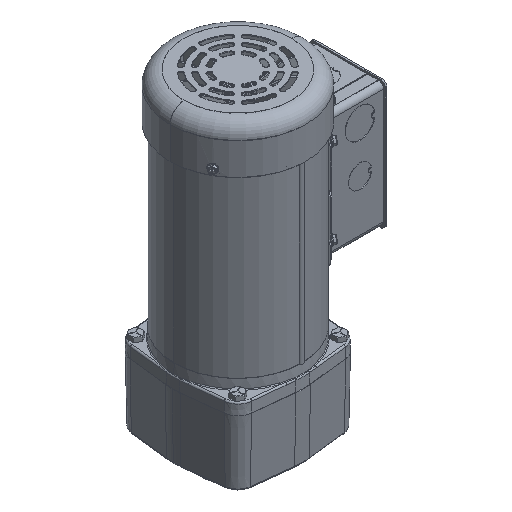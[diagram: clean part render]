
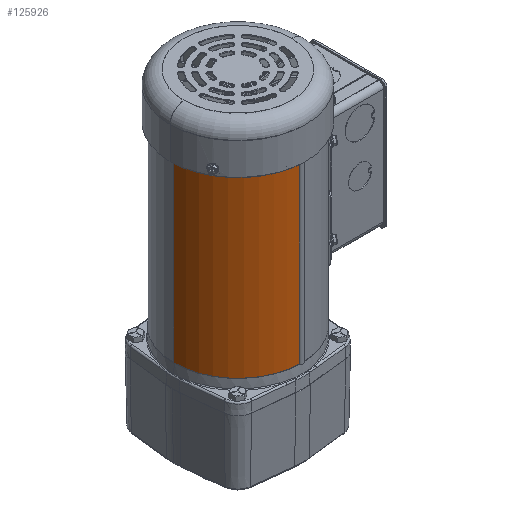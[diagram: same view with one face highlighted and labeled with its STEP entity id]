
A CAD part, isometric view. The second image highlights one B-rep face of the part: STEP entity #125926.
In plain terms, the highlighted cylindrical face has radius 61.773 mm (diameter 123.546 mm), a partial arc.
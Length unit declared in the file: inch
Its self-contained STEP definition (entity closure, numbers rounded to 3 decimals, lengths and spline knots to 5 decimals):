
#3871 = DIRECTION ( 'NONE',  ( 0., 0., 1. ) ) ;
#11103 = ORIENTED_EDGE ( 'NONE', *, *, #12290, .T. ) ;
#12290 = EDGE_CURVE ( 'NONE', #16472, #47808, #76961, .T. ) ;
#16204 = VERTEX_POINT ( 'NONE', #41855 ) ;
#16472 = VERTEX_POINT ( 'NONE', #88556 ) ;
#19276 = CYLINDRICAL_SURFACE ( 'NONE', #84937, 2.432 ) ;
#20768 = VECTOR ( 'NONE', #3871, 39.37008 ) ;
#21103 = CARTESIAN_POINT ( 'NONE',  ( 0., 0., 1.1565 ) ) ;
#21335 = DIRECTION ( 'NONE',  ( 0., 0., 1. ) ) ;
#32765 = EDGE_CURVE ( 'NONE', #72530, #16204, #113583, .T. ) ;
#37244 = VECTOR ( 'NONE', #21335, 39.37008 ) ;
#41855 = CARTESIAN_POINT ( 'NONE',  ( -0.09, -2.43033, 7.9065 ) ) ;
#42729 = FACE_OUTER_BOUND ( 'NONE', #69313, .T. ) ;
#47808 = VERTEX_POINT ( 'NONE', #111767 ) ;
#51152 = EDGE_CURVE ( 'NONE', #16472, #72530, #129608, .T. ) ;
#55250 = ORIENTED_EDGE ( 'NONE', *, *, #127034, .T. ) ;
#62426 = CARTESIAN_POINT ( 'NONE',  ( -2.432, 0., 7.9065 ) ) ;
#69313 = EDGE_LOOP ( 'NONE', ( #91643, #11103, #55250, #94791 ) ) ;
#72530 = VERTEX_POINT ( 'NONE', #62426 ) ;
#73256 = CARTESIAN_POINT ( 'NONE',  ( 0., 0., 7.9065 ) ) ;
#76961 = CIRCLE ( 'NONE', #104371, 2.432 ) ;
#84937 = AXIS2_PLACEMENT_3D ( 'NONE', #21103, #105838, #95024 ) ;
#85251 = DIRECTION ( 'NONE',  ( 1., 0., 0. ) ) ;
#88556 = CARTESIAN_POINT ( 'NONE',  ( -2.432, 0., 1.1565 ) ) ;
#89134 = CARTESIAN_POINT ( 'NONE',  ( -0.09, -2.43033, 1.1565 ) ) ;
#89258 = AXIS2_PLACEMENT_3D ( 'NONE', #73256, #98548, #85251 ) ;
#91643 = ORIENTED_EDGE ( 'NONE', *, *, #51152, .F. ) ;
#94791 = ORIENTED_EDGE ( 'NONE', *, *, #32765, .F. ) ;
#95024 = DIRECTION ( 'NONE',  ( 1., 0., 0. ) ) ;
#95381 = CARTESIAN_POINT ( 'NONE',  ( 0., 0., 1.1565 ) ) ;
#96317 = DIRECTION ( 'NONE',  ( 1., 0., 0. ) ) ;
#98548 = DIRECTION ( 'NONE',  ( 0., 0., 1. ) ) ;
#104371 = AXIS2_PLACEMENT_3D ( 'NONE', #95381, #138727, #96317 ) ;
#104699 = CARTESIAN_POINT ( 'NONE',  ( -2.432, 0., 1.1565 ) ) ;
#105838 = DIRECTION ( 'NONE',  ( 0., 0., 1. ) ) ;
#111767 = CARTESIAN_POINT ( 'NONE',  ( -0.09, -2.43033, 1.1565 ) ) ;
#113583 = CIRCLE ( 'NONE', #89258, 2.432 ) ;
#121390 = LINE ( 'NONE', #89134, #20768 ) ;
#125926 = ADVANCED_FACE ( 'NONE', ( #42729 ), #19276, .T. ) ;
#127034 = EDGE_CURVE ( 'NONE', #47808, #16204, #121390, .T. ) ;
#129608 = LINE ( 'NONE', #104699, #37244 ) ;
#138727 = DIRECTION ( 'NONE',  ( 0., 0., 1. ) ) ;
